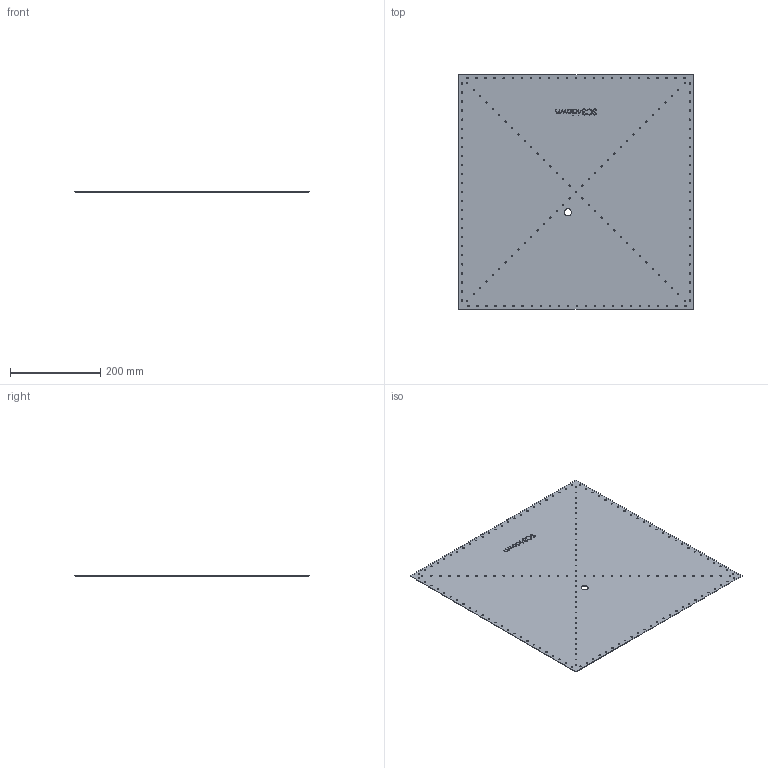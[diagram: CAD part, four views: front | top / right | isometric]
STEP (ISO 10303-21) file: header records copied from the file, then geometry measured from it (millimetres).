
FILE_DESCRIPTION (( 'STEP AP214' ), '1' );
FILE_NAME ('SC134down.STEP', '2016-02-26T10:48:12', ( '' ), ( '' ), 'SwSTEP 2.0', 'SolidWorks 2012', '' );
FILE_SCHEMA (( 'AUTOMOTIVE_DESIGN' ));
Length unit declared in the file: millimetre
Products named in the file (1): SC134down
Bounding box: 519.29 x 519.29 x 2 mm (x, y, z)
Volume: 534847.5 mm3; surface area: 542077.1 mm2
Topology: 1 solids, 1 shells, 805 faces, 2036 edges, 1244 vertices
Faces by surface type: cylinder 340, cone 336, plane 67, bspline 62
Entity records: 27992 total; most frequent: CARTESIAN_POINT 7572, DIRECTION 4416, ORIENTED_EDGE 4072, EDGE_CURVE 2036, AXIS2_PLACEMENT_3D 1760, VERTEX_POINT 1244, EDGE_LOOP 1156, CIRCLE 1016
